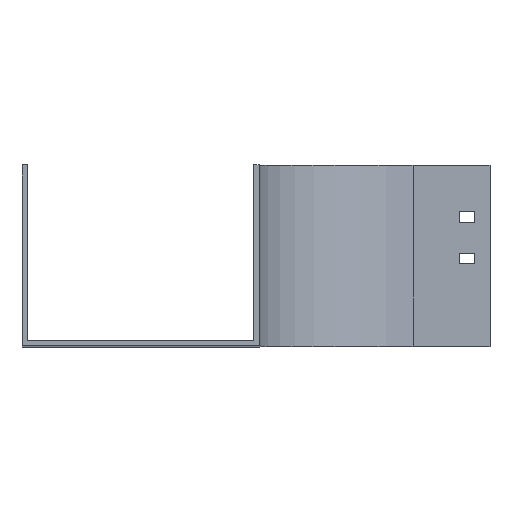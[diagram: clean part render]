
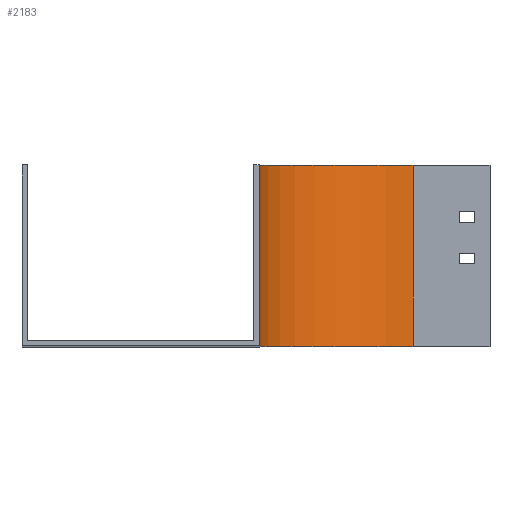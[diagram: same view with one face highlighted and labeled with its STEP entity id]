
A CAD part, top view. The second image highlights one B-rep face of the part: STEP entity #2183.
In plain terms, the highlighted cylindrical face has radius 100 mm (diameter 200 mm), a partial arc.
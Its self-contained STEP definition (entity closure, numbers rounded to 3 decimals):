
#130 = DIRECTION ( 'NONE',  ( 0., -1., 0. ) ) ;
#189 = VECTOR ( 'NONE', #2291, 1000. ) ;
#216 = ORIENTED_EDGE ( 'NONE', *, *, #2262, .T. ) ;
#298 = CARTESIAN_POINT ( 'NONE',  ( 0., 117.5, 0. ) ) ;
#376 = EDGE_CURVE ( 'NONE', #956, #2485, #1211, .T. ) ;
#397 = ORIENTED_EDGE ( 'NONE', *, *, #2008, .T. ) ;
#468 = CARTESIAN_POINT ( 'NONE',  ( -100., 117.5, 0. ) ) ;
#548 = EDGE_LOOP ( 'NONE', ( #397, #576, #1260, #216 ) ) ;
#576 = ORIENTED_EDGE ( 'NONE', *, *, #2276, .F. ) ;
#675 = DIRECTION ( 'NONE',  ( 0., 0., -1. ) ) ;
#701 = VECTOR ( 'NONE', #2171, 1000. ) ;
#741 = AXIS2_PLACEMENT_3D ( 'NONE', #1020, #130, #878 ) ;
#766 = VERTEX_POINT ( 'NONE', #927 ) ;
#878 = DIRECTION ( 'NONE',  ( 0., 0., -1. ) ) ;
#892 = FACE_OUTER_BOUND ( 'NONE', #548, .T. ) ;
#897 = CARTESIAN_POINT ( 'NONE',  ( 0., 0., 0. ) ) ;
#920 = DIRECTION ( 'NONE',  ( 0., -1., 0. ) ) ;
#927 = CARTESIAN_POINT ( 'NONE',  ( -100., 0., 0. ) ) ;
#956 = VERTEX_POINT ( 'NONE', #969 ) ;
#969 = CARTESIAN_POINT ( 'NONE',  ( -100., 117.5, 0. ) ) ;
#993 = VERTEX_POINT ( 'NONE', #2031 ) ;
#1020 = CARTESIAN_POINT ( 'NONE',  ( 0., 117.5, 0. ) ) ;
#1175 = CIRCLE ( 'NONE', #1760, 100. ) ;
#1211 = CIRCLE ( 'NONE', #1967, 100. ) ;
#1260 = ORIENTED_EDGE ( 'NONE', *, *, #376, .F. ) ;
#1269 = CARTESIAN_POINT ( 'NONE',  ( 0., 117.5, -100. ) ) ;
#1355 = CARTESIAN_POINT ( 'NONE',  ( 0., 117.5, -100. ) ) ;
#1526 = DIRECTION ( 'NONE',  ( 0., -1., 0. ) ) ;
#1669 = LINE ( 'NONE', #1269, #189 ) ;
#1760 = AXIS2_PLACEMENT_3D ( 'NONE', #897, #1526, #675 ) ;
#1925 = CYLINDRICAL_SURFACE ( 'NONE', #741, 100. ) ;
#1957 = LINE ( 'NONE', #468, #701 ) ;
#1967 = AXIS2_PLACEMENT_3D ( 'NONE', #298, #920, #2425 ) ;
#2008 = EDGE_CURVE ( 'NONE', #766, #993, #1175, .T. ) ;
#2031 = CARTESIAN_POINT ( 'NONE',  ( 0., 0., -100. ) ) ;
#2171 = DIRECTION ( 'NONE',  ( 0., -1., 0. ) ) ;
#2183 = ADVANCED_FACE ( 'NONE', ( #892 ), #1925, .F. ) ;
#2262 = EDGE_CURVE ( 'NONE', #956, #766, #1957, .T. ) ;
#2276 = EDGE_CURVE ( 'NONE', #2485, #993, #1669, .T. ) ;
#2291 = DIRECTION ( 'NONE',  ( 0., -1., 0. ) ) ;
#2425 = DIRECTION ( 'NONE',  ( 0., 0., -1. ) ) ;
#2485 = VERTEX_POINT ( 'NONE', #1355 ) ;
